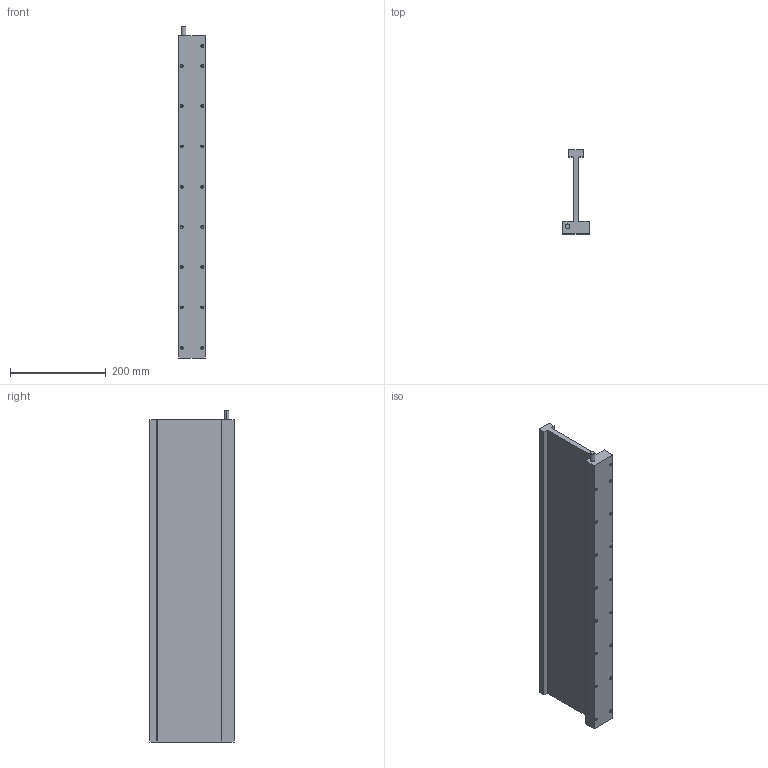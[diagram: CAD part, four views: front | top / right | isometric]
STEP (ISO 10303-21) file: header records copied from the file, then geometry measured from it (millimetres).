
FILE_DESCRIPTION (( 'STEP AP214' ), '1' );
FILE_NAME ('JKA6-3.STEP', '2025-09-05T12:53:18', ( '' ), ( '' ), 'SwSTEP 2.0', 'SolidWorks 2016', '' );
FILE_SCHEMA (( 'AUTOMOTIVE_DESIGN' ));
Length unit declared in the file: millimetre
Products named in the file (1): JKA6-3
Bounding box: 55.1 x 175.5 x 693 mm (x, y, z)
Volume: 2212518.4 mm3; surface area: 345426.4 mm2
Topology: 1 solids, 1 shells, 119 faces, 280 edges, 147 vertices
Faces by surface type: cone 68, cylinder 36, plane 15
Entity records: 3526 total; most frequent: DIRECTION 592, CARTESIAN_POINT 513, ORIENTED_EDGE 492, EDGE_CURVE 246, AXIS2_PLACEMENT_3D 226, VERTEX_POINT 147, VECTOR 140, LINE 140
